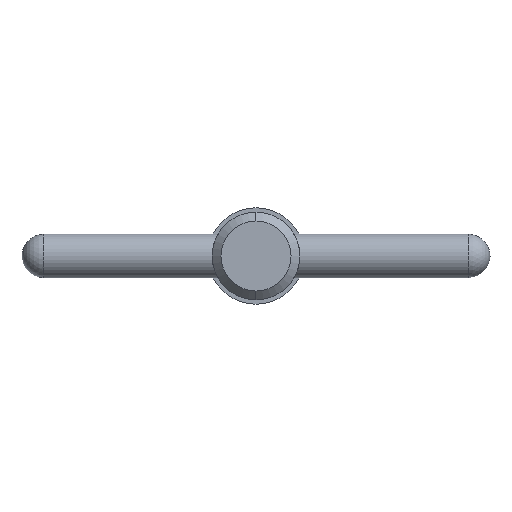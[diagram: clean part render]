
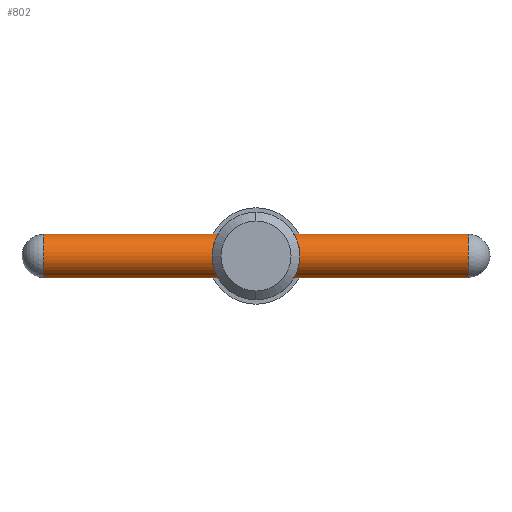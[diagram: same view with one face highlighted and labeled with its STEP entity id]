
A CAD part, left-side view. The second image highlights one B-rep face of the part: STEP entity #802.
In plain terms, the highlighted cylindrical face has radius 1.19 mm (diameter 2.38 mm), a partial arc.
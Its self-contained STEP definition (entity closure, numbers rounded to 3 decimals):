
#17 = CYLINDRICAL_SURFACE ( 'NONE', #796, 1.19 ) ;
#20 = DIRECTION ( 'NONE',  ( 0., -1., 0. ) ) ;
#49 = VERTEX_POINT ( 'NONE', #149 ) ;
#85 = CARTESIAN_POINT ( 'NONE',  ( 0., 12.7, 1.19 ) ) ;
#113 = DIRECTION ( 'NONE',  ( 0., 0., -1. ) ) ;
#115 = VERTEX_POINT ( 'NONE', #756 ) ;
#139 = CARTESIAN_POINT ( 'NONE',  ( 0., -11.51, 0. ) ) ;
#149 = CARTESIAN_POINT ( 'NONE',  ( 0., -11.51, 1.19 ) ) ;
#219 = ORIENTED_EDGE ( 'NONE', *, *, #600, .F. ) ;
#224 = VERTEX_POINT ( 'NONE', #533 ) ;
#272 = ORIENTED_EDGE ( 'NONE', *, *, #770, .T. ) ;
#302 = CIRCLE ( 'NONE', #470, 1.19 ) ;
#319 = FACE_OUTER_BOUND ( 'NONE', #356, .T. ) ;
#328 = LINE ( 'NONE', #646, #641 ) ;
#356 = EDGE_LOOP ( 'NONE', ( #219, #807, #526, #272 ) ) ;
#380 = LINE ( 'NONE', #85, #549 ) ;
#418 = DIRECTION ( 'NONE',  ( 0., 1., 0. ) ) ;
#419 = AXIS2_PLACEMENT_3D ( 'NONE', #139, #418, #479 ) ;
#446 = EDGE_CURVE ( 'NONE', #224, #595, #302, .T. ) ;
#468 = DIRECTION ( 'NONE',  ( 0., 0., -1. ) ) ;
#470 = AXIS2_PLACEMENT_3D ( 'NONE', #661, #877, #113 ) ;
#479 = DIRECTION ( 'NONE',  ( 0., 0., -1. ) ) ;
#526 = ORIENTED_EDGE ( 'NONE', *, *, #909, .T. ) ;
#533 = CARTESIAN_POINT ( 'NONE',  ( 0., 11.51, 1.19 ) ) ;
#549 = VECTOR ( 'NONE', #666, 1000. ) ;
#595 = VERTEX_POINT ( 'NONE', #672 ) ;
#600 = EDGE_CURVE ( 'NONE', #224, #49, #380, .T. ) ;
#628 = CIRCLE ( 'NONE', #419, 1.19 ) ;
#641 = VECTOR ( 'NONE', #20, 1000. ) ;
#646 = CARTESIAN_POINT ( 'NONE',  ( 0., 12.7, -1.19 ) ) ;
#661 = CARTESIAN_POINT ( 'NONE',  ( 0., 11.51, 0. ) ) ;
#666 = DIRECTION ( 'NONE',  ( 0., -1., 0. ) ) ;
#672 = CARTESIAN_POINT ( 'NONE',  ( 0., 11.51, -1.19 ) ) ;
#687 = CARTESIAN_POINT ( 'NONE',  ( 0., 12.7, 0. ) ) ;
#756 = CARTESIAN_POINT ( 'NONE',  ( 0., -11.51, -1.19 ) ) ;
#770 = EDGE_CURVE ( 'NONE', #115, #49, #628, .T. ) ;
#796 = AXIS2_PLACEMENT_3D ( 'NONE', #687, #833, #468 ) ;
#802 = ADVANCED_FACE ( 'NONE', ( #319 ), #17, .T. ) ;
#807 = ORIENTED_EDGE ( 'NONE', *, *, #446, .T. ) ;
#833 = DIRECTION ( 'NONE',  ( 0., -1., 0. ) ) ;
#877 = DIRECTION ( 'NONE',  ( 0., -1., 0. ) ) ;
#909 = EDGE_CURVE ( 'NONE', #595, #115, #328, .T. ) ;
